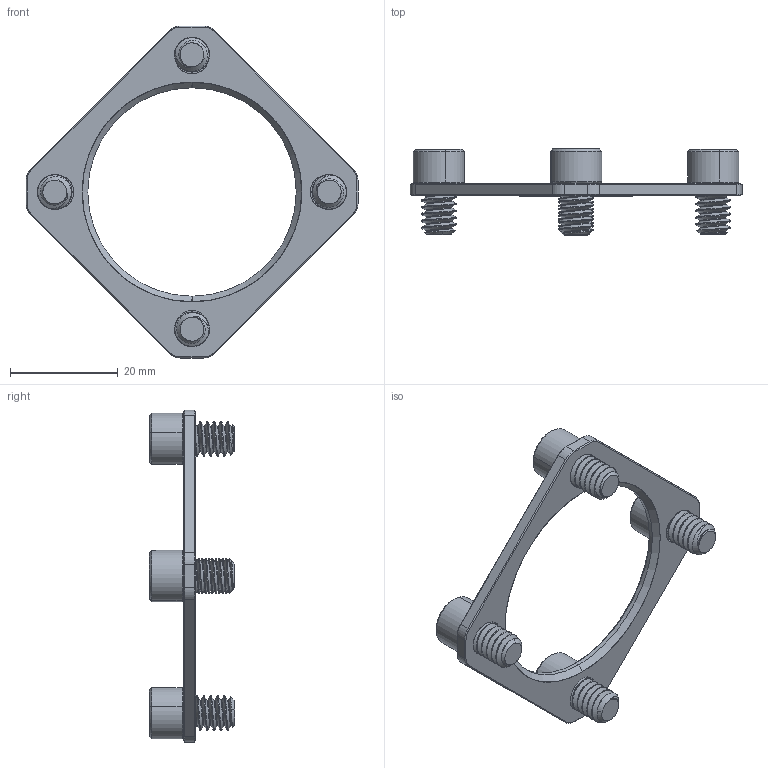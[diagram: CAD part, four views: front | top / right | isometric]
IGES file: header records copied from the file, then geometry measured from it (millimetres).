
Start section: SolidWorks IGES file using analytic representation for surfaces
Global section: file name: Z:\g2 CAD\EREZ PDM TMP\OT-IGES\BC0500-OTX-Imperial Table Clamp.IGS; native system: SolidWorks 2015; preprocessor: SolidWorks 2015; author: Erez; date: 160101.185404; units: millimetre
Bounding box: 61.5 x 15.88 x 61.5 mm (x, y, z)
Surface area: 5292.7 mm2 (no closed solid volume)
Topology: 0 solids, 0 shells, 302 faces, 5764 edges, 5764 vertices
Faces by surface type: revolution 220, bspline 82
